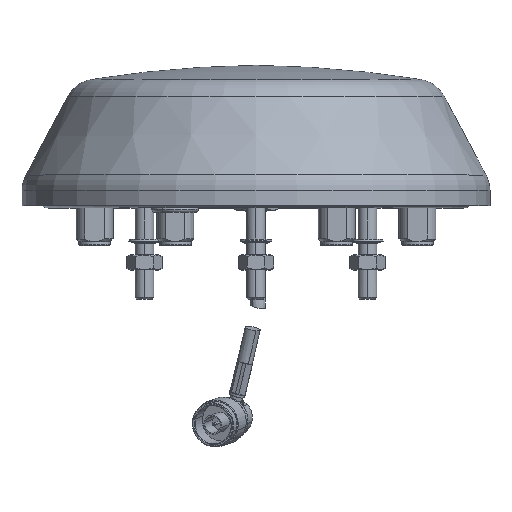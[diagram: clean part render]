
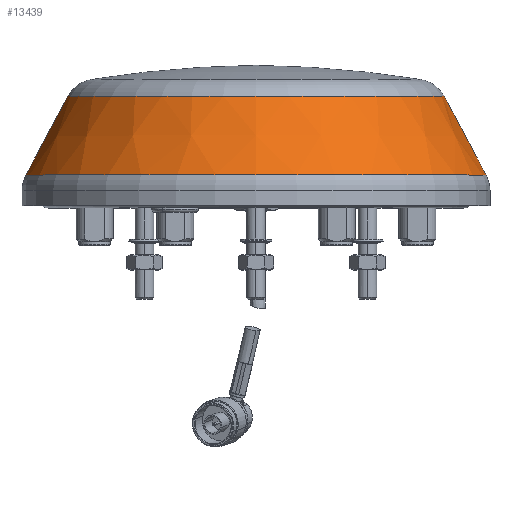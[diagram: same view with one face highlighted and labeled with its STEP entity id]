
A CAD part, top view. The second image highlights one B-rep face of the part: STEP entity #13439.
In plain terms, the highlighted conical face has half-angle 28 degrees and reference radius 100 mm.
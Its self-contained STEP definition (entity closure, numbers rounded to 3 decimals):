
#555 = ORIENTED_EDGE ( 'NONE', *, *, #29986, .T. ) ;
#3877 = AXIS2_PLACEMENT_3D ( 'NONE', #51484, #25355, #55907 ) ;
#6063 = CIRCLE ( 'NONE', #3877, 98.361 ) ;
#7004 = ORIENTED_EDGE ( 'NONE', *, *, #28039, .T. ) ;
#10445 = DIRECTION ( 'NONE',  ( 1., 0., 0. ) ) ;
#11671 = VERTEX_POINT ( 'NONE', #21999 ) ;
#12394 = EDGE_LOOP ( 'NONE', ( #7004, #555, #19962, #46258 ) ) ;
#12780 = AXIS2_PLACEMENT_3D ( 'NONE', #46369, #54943, #20161 ) ;
#13439 = ADVANCED_FACE ( 'NONE', ( #35541 ), #23913, .T. ) ;
#14960 = AXIS2_PLACEMENT_3D ( 'NONE', #54009, #54387, #10445 ) ;
#15425 = CARTESIAN_POINT ( 'NONE',  ( 98.361, 13.082, 0. ) ) ;
#19962 = ORIENTED_EDGE ( 'NONE', *, *, #26510, .T. ) ;
#20161 = DIRECTION ( 'NONE',  ( -1., 0., 0. ) ) ;
#21403 = VERTEX_POINT ( 'NONE', #15425 ) ;
#21999 = CARTESIAN_POINT ( 'NONE',  ( -80.473, 46.726, 0. ) ) ;
#22211 = VECTOR ( 'NONE', #49932, 1000. ) ;
#23533 = DIRECTION ( 'NONE',  ( -0.469, -0.883, 0. ) ) ;
#23588 = CARTESIAN_POINT ( 'NONE',  ( 100., 10., 0. ) ) ;
#23913 = CONICAL_SURFACE ( 'NONE', #14960, 100., 0.489 ) ;
#25355 = DIRECTION ( 'NONE',  ( 0., 1., 0. ) ) ;
#26510 = EDGE_CURVE ( 'NONE', #51575, #21403, #6063, .T. ) ;
#28039 = EDGE_CURVE ( 'NONE', #35344, #11671, #34669, .T. ) ;
#29986 = EDGE_CURVE ( 'NONE', #11671, #51575, #46036, .T. ) ;
#34669 = CIRCLE ( 'NONE', #12780, 80.473 ) ;
#34730 = CARTESIAN_POINT ( 'NONE',  ( -100., 10., 0. ) ) ;
#35344 = VERTEX_POINT ( 'NONE', #49480 ) ;
#35541 = FACE_OUTER_BOUND ( 'NONE', #12394, .T. ) ;
#45142 = EDGE_CURVE ( 'NONE', #35344, #21403, #56322, .T. ) ;
#45174 = CARTESIAN_POINT ( 'NONE',  ( -98.361, 13.082, 0. ) ) ;
#46036 = LINE ( 'NONE', #34730, #52030 ) ;
#46258 = ORIENTED_EDGE ( 'NONE', *, *, #45142, .F. ) ;
#46369 = CARTESIAN_POINT ( 'NONE',  ( 0., 46.726, 0. ) ) ;
#49480 = CARTESIAN_POINT ( 'NONE',  ( 80.473, 46.726, 0. ) ) ;
#49932 = DIRECTION ( 'NONE',  ( 0.469, -0.883, 0. ) ) ;
#51484 = CARTESIAN_POINT ( 'NONE',  ( 0., 13.082, 0. ) ) ;
#51575 = VERTEX_POINT ( 'NONE', #45174 ) ;
#52030 = VECTOR ( 'NONE', #23533, 1000. ) ;
#54009 = CARTESIAN_POINT ( 'NONE',  ( 0., 10., 0. ) ) ;
#54387 = DIRECTION ( 'NONE',  ( 0., -1., 0. ) ) ;
#54943 = DIRECTION ( 'NONE',  ( 0., -1., 0. ) ) ;
#55907 = DIRECTION ( 'NONE',  ( -1., 0., 0. ) ) ;
#56322 = LINE ( 'NONE', #23588, #22211 ) ;
